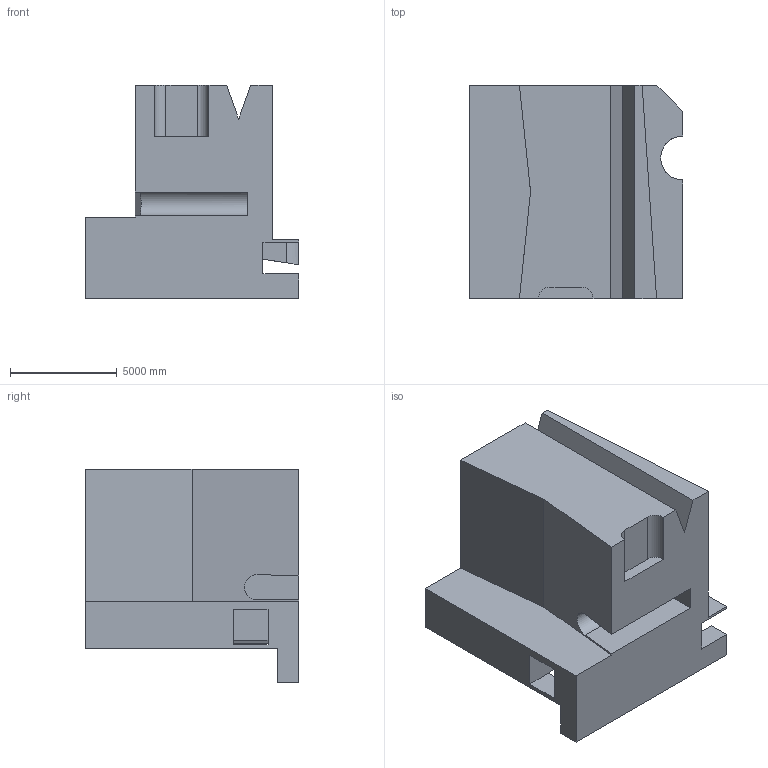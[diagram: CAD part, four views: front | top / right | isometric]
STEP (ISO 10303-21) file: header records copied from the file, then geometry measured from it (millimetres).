
FILE_DESCRIPTION (( 'STEP AP203' ), '1' );
FILE_NAME ('1921.STEP', '2022-08-26T13:36:54', ( 'user' ), ( '' ), 'SwSTEP 2.0', 'SolidWorks 2021', '' );
FILE_SCHEMA (( 'CONFIG_CONTROL_DESIGN' ));
Length unit declared in the file: centimetre
Products named in the file (1): 1921
Bounding box: 10000 x 10000 x 10000 mm (x, y, z)
Volume: 490897274305.3 mm3; surface area: 585274221.3 mm2
Topology: 1 solids, 1 shells, 38 faces, 111 edges, 74 vertices
Faces by surface type: plane 34, cylinder 4
Entity records: 1323 total; most frequent: CARTESIAN_POINT 230, ORIENTED_EDGE 222, DIRECTION 194, EDGE_CURVE 111, VECTOR 102, LINE 102, VERTEX_POINT 74, AXIS2_PLACEMENT_3D 46
